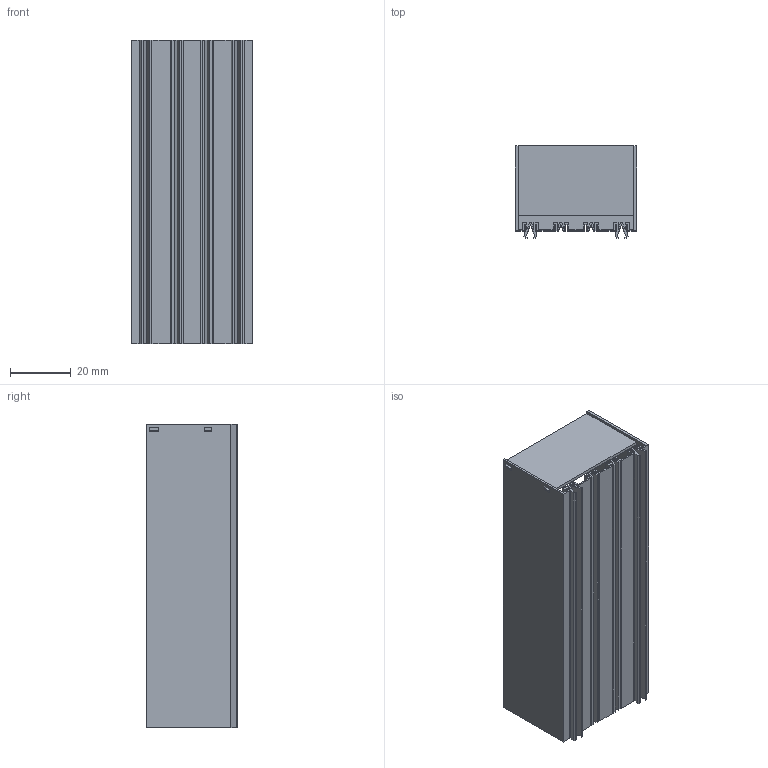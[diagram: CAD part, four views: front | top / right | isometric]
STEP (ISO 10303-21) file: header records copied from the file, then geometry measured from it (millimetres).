
FILE_DESCRIPTION(/* description */ (''),/* implementation_level */ '2;1');
FILE_NAME(/* name */ 'C:/Users/priba/Documents/Temp/BatteryHolderA.step',/* time_stamp */ '2019-11-01T23:11:05+01:00',/* author */ (''),/* organization */ (''),/* preprocessor_version */ 'ST-DEVELOPER v18',/* originating_system */ 'Autodesk Translation Framework v8.9.1.1155',/* authorisation */ '');
FILE_SCHEMA (('AUTOMOTIVE_DESIGN { 1 0 10303 214 3 1 1 }'));
Length unit declared in the file: millimetre
Products named in the file (1): BatteryHolderA
Bounding box: 40 x 30.31 x 100 mm (x, y, z)
Volume: 11668.5 mm3; surface area: 34205.8 mm2
Topology: 6 solids, 6 shells, 156 faces, 440 edges, 296 vertices
Faces by surface type: plane 156
Entity records: 4981 total; most frequent: CARTESIAN_POINT 893, ORIENTED_EDGE 880, DIRECTION 754, LINE 440, VECTOR 440, EDGE_CURVE 440, VERTEX_POINT 296, EDGE_LOOP 164
